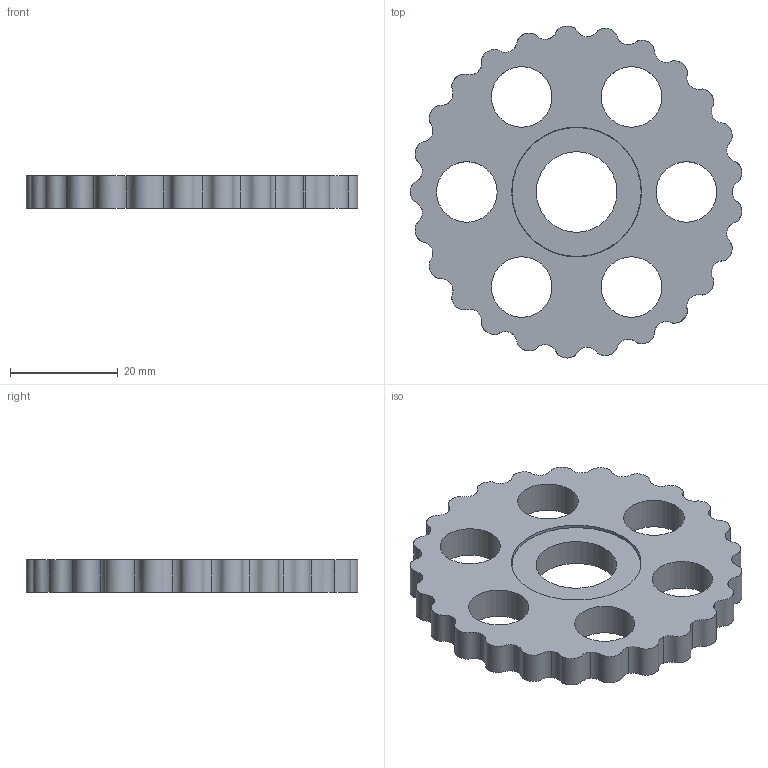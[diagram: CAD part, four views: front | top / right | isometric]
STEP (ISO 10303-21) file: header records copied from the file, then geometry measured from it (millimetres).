
FILE_DESCRIPTION(/* description */ (''),/* implementation_level */ '2;1');
FILE_NAME(/* name */ 'HW-Cycloid25_Disc.step',/* time_stamp */ '2026-10-21T02:01:42-07:00',/* author */ (''),/* organization */ (''),/* preprocessor_version */ 'ST-DEVELOPER v20.2',/* originating_system */ 'Autodesk Translation Framework v15.15.0.0',/* authorisation */ '');
FILE_SCHEMA (('AUTOMOTIVE_DESIGN { 1 0 10303 214 3 1 1 }'));
Length unit declared in the file: millimetre
Products named in the file (1): 2026-10-21-02-01-42-072
Bounding box: 61.59 x 61.7 x 6 mm (x, y, z)
Volume: 11720.1 mm3; surface area: 7751.8 mm2
Topology: 2 solids, 2 shells, 38 faces, 102 edges, 68 vertices
Faces by surface type: bspline 25, cylinder 9, plane 4
Full cylindrical faces by diameter (mm): 11.25 x6, 14.99 x1, 23.99 x1, 24.14 x1
Entity records: 13623 total; most frequent: CARTESIAN_POINT 12834, ORIENTED_EDGE 204, EDGE_CURVE 102, DIRECTION 98, VERTEX_POINT 68, EDGE_LOOP 54, FACE_OUTER_BOUND 38, ADVANCED_FACE 38
